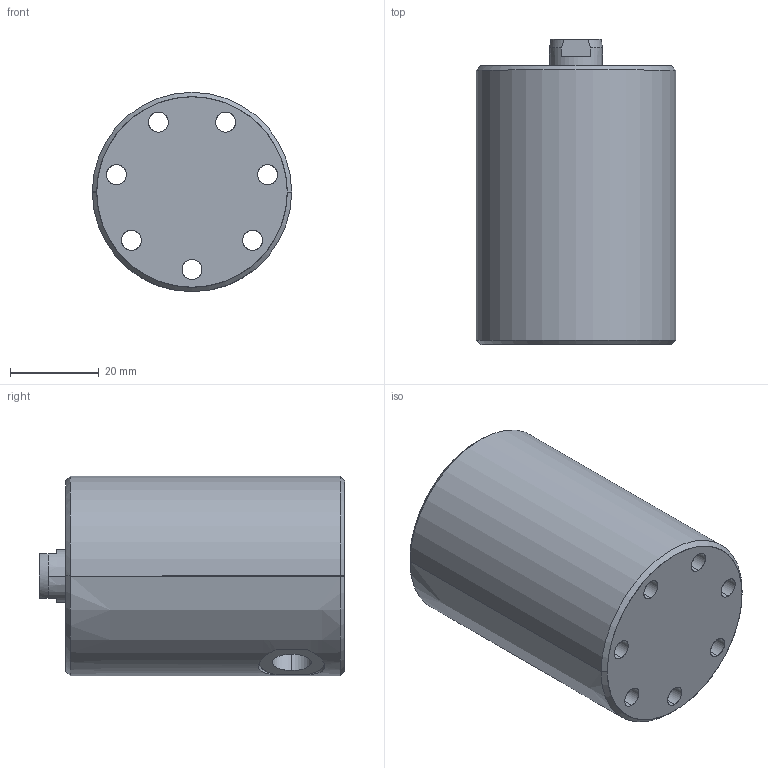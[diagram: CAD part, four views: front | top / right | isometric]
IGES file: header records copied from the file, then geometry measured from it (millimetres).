
Start section: SolidWorks IGES file using analytic representation for surfaces
Global section: file name: D:\karuppas\Clasp\3D model\COMPACT CYLINDER\C02C-4525\Compact cylinder C02C-4525.IGS; native system: SolidWorks 2017; preprocessor: SolidWorks 2017; author: pc; date: 220709.232011; units: millimetre
Bounding box: 45 x 69 x 45 mm (x, y, z)
Surface area: 22391.9 mm2 (no closed solid volume)
Topology: 0 solids, 0 shells, 252 faces, 4028 edges, 4013 vertices
Faces by surface type: bspline 195, revolution 57
